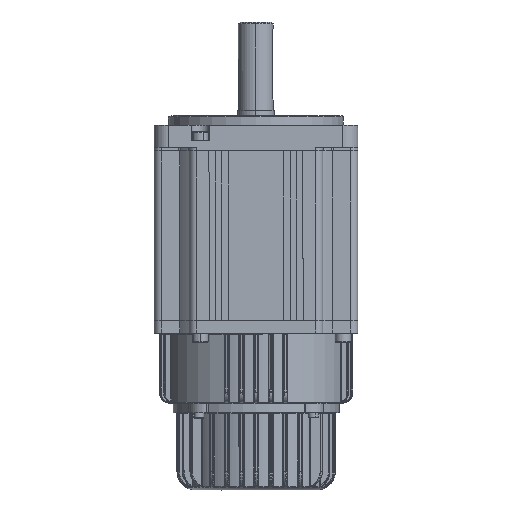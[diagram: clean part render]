
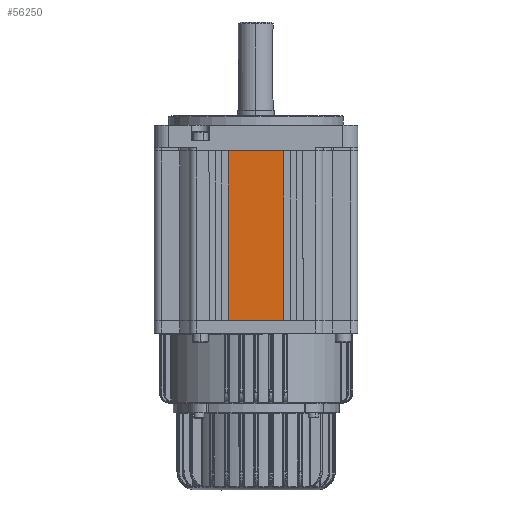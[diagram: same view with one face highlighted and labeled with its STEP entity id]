
A CAD part, front view. The second image highlights one B-rep face of the part: STEP entity #56250.
In plain terms, the highlighted planar face has unit normal (0, -1, 0.001).
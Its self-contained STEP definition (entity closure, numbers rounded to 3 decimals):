
#36 = EDGE_CURVE ( 'NONE', #16699, #57766, #53995, .T. ) ;
#7160 = EDGE_CURVE ( 'NONE', #56236, #8501, #55876, .T. ) ;
#8501 = VERTEX_POINT ( 'NONE', #22748 ) ;
#14227 = EDGE_CURVE ( 'NONE', #56236, #16699, #41129, .T. ) ;
#16699 = VERTEX_POINT ( 'NONE', #36349 ) ;
#19863 = ORIENTED_EDGE ( 'NONE', *, *, #7160, .T. ) ;
#20698 = AXIS2_PLACEMENT_3D ( 'NONE', #37532, #48398, #33352 ) ;
#21688 = ORIENTED_EDGE ( 'NONE', *, *, #51513, .T. ) ;
#22748 = CARTESIAN_POINT ( 'NONE',  ( -15., -55.25, 0. ) ) ;
#22798 = ORIENTED_EDGE ( 'NONE', *, *, #36, .F. ) ;
#26677 = DIRECTION ( 'NONE',  ( 1., 0., 0. ) ) ;
#28226 = ORIENTED_EDGE ( 'NONE', *, *, #14227, .F. ) ;
#33039 = PLANE ( 'NONE',  #20698 ) ;
#33352 = DIRECTION ( 'NONE',  ( 0., 0., 1. ) ) ;
#34399 = DIRECTION ( 'NONE',  ( 1., 0., 0. ) ) ;
#35824 = CARTESIAN_POINT ( 'NONE',  ( 15., -55.25, 0. ) ) ;
#36349 = CARTESIAN_POINT ( 'NONE',  ( 15., -55.25, 92. ) ) ;
#37243 = DIRECTION ( 'NONE',  ( 0., 0., -1. ) ) ;
#37256 = CARTESIAN_POINT ( 'NONE',  ( 15., -55.25, 92. ) ) ;
#37532 = CARTESIAN_POINT ( 'NONE',  ( -55.25, -55.25, 92. ) ) ;
#38429 = EDGE_LOOP ( 'NONE', ( #28226, #19863, #21688, #22798 ) ) ;
#38799 = FACE_OUTER_BOUND ( 'NONE', #38429, .T. ) ;
#39213 = CARTESIAN_POINT ( 'NONE',  ( -55.25, -55.25, 0. ) ) ;
#40352 = VECTOR ( 'NONE', #60722, 1000. ) ;
#41129 = LINE ( 'NONE', #51081, #45374 ) ;
#45374 = VECTOR ( 'NONE', #26677, 1000. ) ;
#48398 = DIRECTION ( 'NONE',  ( 0., 1., 0. ) ) ;
#48953 = VECTOR ( 'NONE', #34399, 1000. ) ;
#51081 = CARTESIAN_POINT ( 'NONE',  ( -55.25, -55.25, 92. ) ) ;
#51513 = EDGE_CURVE ( 'NONE', #8501, #57766, #57835, .T. ) ;
#53995 = LINE ( 'NONE', #37256, #40352 ) ;
#55876 = LINE ( 'NONE', #56193, #61339 ) ;
#56193 = CARTESIAN_POINT ( 'NONE',  ( -15., -55.25, 92. ) ) ;
#56236 = VERTEX_POINT ( 'NONE', #57733 ) ;
#56250 = ADVANCED_FACE ( 'NONE', ( #38799 ), #33039, .F. ) ;
#57733 = CARTESIAN_POINT ( 'NONE',  ( -15., -55.25, 92. ) ) ;
#57766 = VERTEX_POINT ( 'NONE', #35824 ) ;
#57835 = LINE ( 'NONE', #39213, #48953 ) ;
#60722 = DIRECTION ( 'NONE',  ( 0., 0., -1. ) ) ;
#61339 = VECTOR ( 'NONE', #37243, 1000. ) ;
